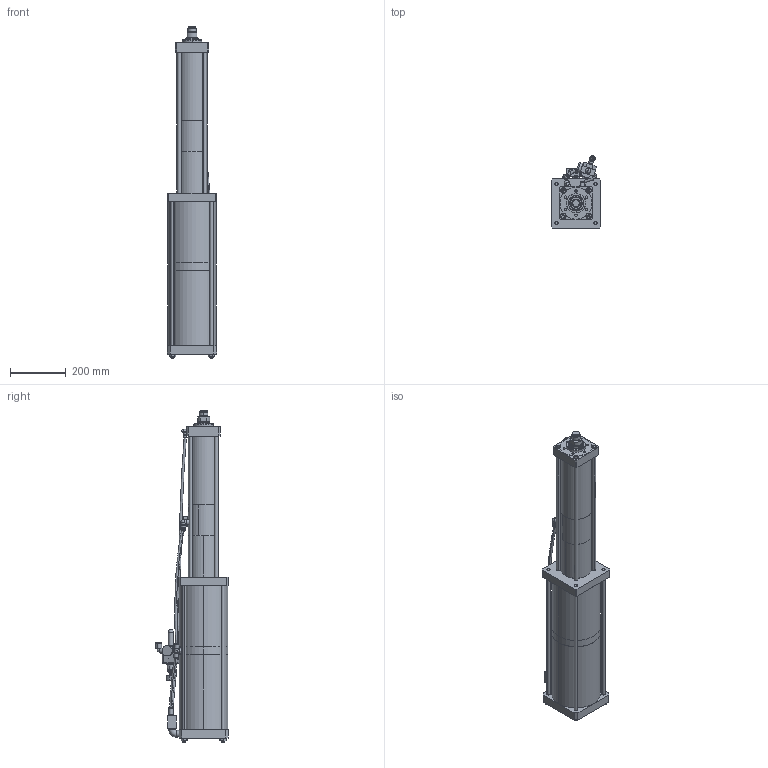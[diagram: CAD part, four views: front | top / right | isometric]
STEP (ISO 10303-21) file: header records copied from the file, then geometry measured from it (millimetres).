
FILE_DESCRIPTION (( 'STEP AP203' ), '1' );
FILE_NAME ('BS08-200-24A.step', '2025-07-31T09:39:55', ( 'Ranlm' ), ( '' ), 'SwSTEP 2.0', 'SolidWorks 2022', '' );
FILE_SCHEMA (( 'CONFIG_CONTROL_DESIGN' ));
Length unit declared in the file: millimetre
Products named in the file (1): BS08-200-24A
Bounding box: 177 x 260.96 x 1196 mm (x, y, z)
Surface area: 1012364.2 mm2 (no closed solid volume)
Topology: 0 solids, 73 shells, 704 faces, 2012 edges, 1358 vertices
Faces by surface type: plane 311, cylinder 255, cone 95, torus 21, bspline 18, sphere 4
Entity records: 25606 total; most frequent: CARTESIAN_POINT 7152, DIRECTION 4060, ORIENTED_EDGE 3331, EDGE_CURVE 1994, AXIS2_PLACEMENT_3D 1554, VERTEX_POINT 1354, VECTOR 952, LINE 952
